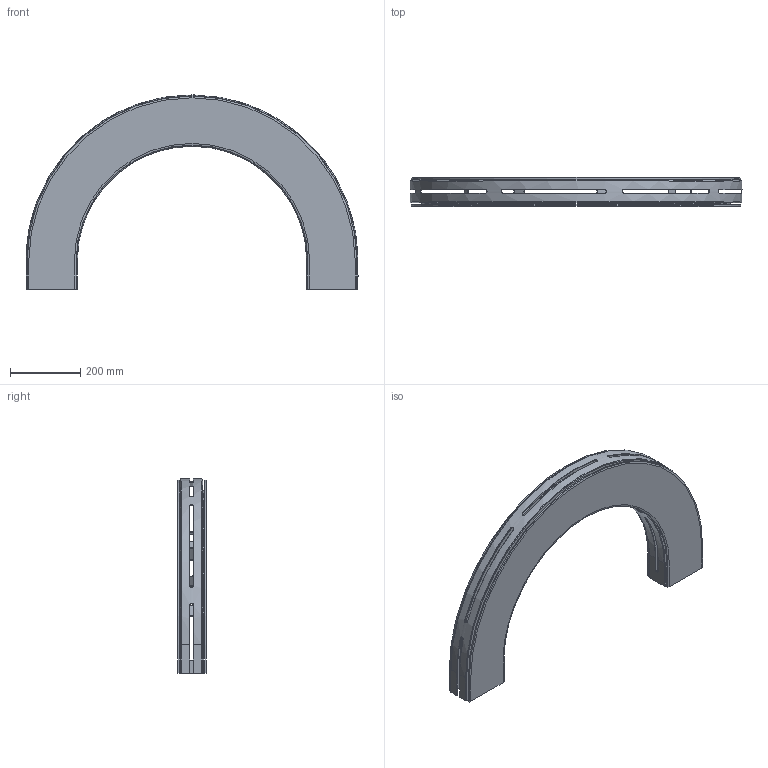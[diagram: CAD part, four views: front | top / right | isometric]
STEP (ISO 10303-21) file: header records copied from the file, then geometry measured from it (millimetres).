
FILE_DESCRIPTION((''),'2;1');
FILE_NAME('C:\Vault Klient\Projekt\Koncept konstruktion\Serie 540 Balk\540-5270.stp','2010-11-24T14:50:40',('Mathias'),(''),'Autodesk Inventor 2011','Autodesk Inventor 2011','');
FILE_SCHEMA(('AUTOMOTIVE_DESIGN { 1 0 10303 214 1 1 1 1 }'));
Length unit declared in the file: millimetre
Products named in the file (1): 540-5270
Bounding box: 946 x 82 x 553 mm (x, y, z)
Volume: 3196804.3 mm3; surface area: 1642599.1 mm2
Topology: 2 solids, 2 shells, 187 faces, 530 edges, 348 vertices
Faces by surface type: plane 119, bspline 30, cylinder 28, cone 6, torus 4
Entity records: 7038 total; most frequent: CARTESIAN_POINT 2172, ORIENTED_EDGE 1060, DIRECTION 894, EDGE_CURVE 530, VECTOR 362, LINE 362, VERTEX_POINT 348, AXIS2_PLACEMENT_3D 266
